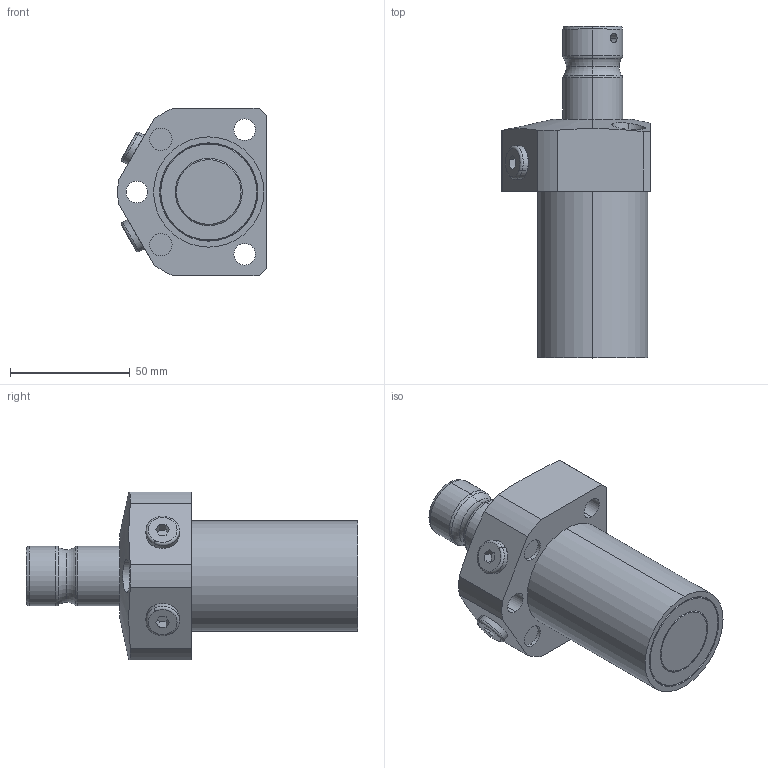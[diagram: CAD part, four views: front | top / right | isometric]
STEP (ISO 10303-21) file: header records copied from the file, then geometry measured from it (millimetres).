
FILE_DESCRIPTION (( 'STEP AP203' ), '1' );
FILE_NAME ('231601-CR.STEP', '2019-06-29T08:09:55', ( '微软用户' ), ( '微软中国' ), 'SwSTEP 2.0', 'SolidWorks 2014', '' );
FILE_SCHEMA (( 'CONFIG_CONTROL_DESIGN' ));
Length unit declared in the file: millimetre
Products named in the file (5): 葩璃 4BN-02WD^231601-CR; 葩璃 231601.01^231601-CR; 葩璃 231601.04^231601-CR; 231601-CR; 葩璃 231601.02^231601-CR
Assembly tree (5 placements, depth 2):
  231601-CR
    葩璃 231601.02^231601-CR
    葩璃 4BN-02WD^231601-CR  x2
    葩璃 231601.01^231601-CR
    葩璃 231601.04^231601-CR
Bounding box: 61.97 x 138.5 x 70 mm (x, y, z)
Volume: 260852.4 mm3; surface area: 39081.5 mm2
Topology: 5 solids, 5 shells, 135 faces, 284 edges, 176 vertices
Faces by surface type: cylinder 51, plane 46, torus 20, cone 18
Entity records: 3900 total; most frequent: CARTESIAN_POINT 922, DIRECTION 565, ORIENTED_EDGE 460, AXIS2_PLACEMENT_3D 237, EDGE_CURVE 230, VERTEX_POINT 144, EDGE_LOOP 130, CIRCLE 120
